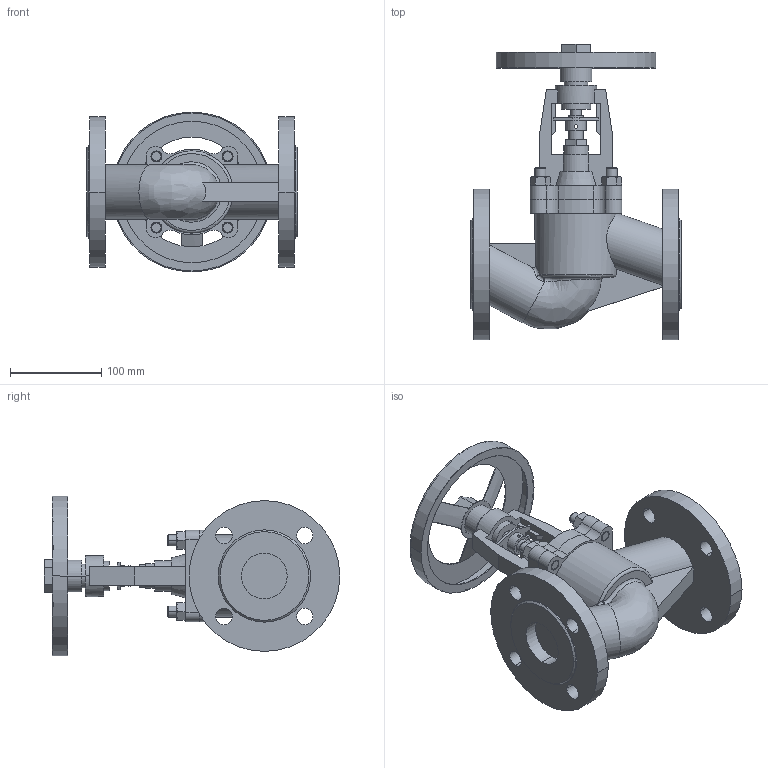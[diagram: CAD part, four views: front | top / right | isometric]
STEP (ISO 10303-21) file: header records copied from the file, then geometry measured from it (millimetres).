
FILE_DESCRIPTION((''),'2;1');
FILE_NAME('BSV-16F_SB_ASM','2026-05-05T',('user'),(''),'PRO/ENGINEER BY PARAMETRIC TECHNOLOGY CORPORATION, 2011220','PRO/ENGINEER BY PARAMETRIC TECHNOLOGY CORPORATION, 2011220','');
FILE_SCHEMA(('CONFIG_CONTROL_DESIGN'));
Length unit declared in the file: millimetre
Products named in the file (11): BSF-16F_KORPUS; BSF-16F_KRISKA; BSF-16F_SHPILKA; G-5915-M12; BSF-16F_SHTOK_SILFON; BSF-16F_VTULKA; BSF-16F_VTULKA_2; BSF-16F_VTULKA_3; BSF-16F_SHTURVAL; BSF-16F_GAIKA; BSV-16F_SB_ASM
Assembly tree (16 placements, depth 2):
  BSV-16F_SB_ASM
    BSF-16F_KORPUS
    BSF-16F_KRISKA
    BSF-16F_SHPILKA  x4
    G-5915-M12  x4
    BSF-16F_SHTOK_SILFON
    BSF-16F_VTULKA
    BSF-16F_VTULKA_2
    BSF-16F_VTULKA_3
    BSF-16F_SHTURVAL
    BSF-16F_GAIKA
Bounding box: 230 x 323.5 x 175 mm (x, y, z)
Volume: 2169966.6 mm3; surface area: 345722.4 mm2
Topology: 16 solids, 28 shells, 410 faces, 1020 edges, 657 vertices
Faces by surface type: plane 172, cylinder 167, cone 60, bspline 9, torus 2
Entity records: 11480 total; most frequent: CARTESIAN_POINT 3009, DIRECTION 1826, ORIENTED_EDGE 1620, EDGE_CURVE 828, AXIS2_PLACEMENT_3D 710, VERTEX_POINT 537, VECTOR 406, LINE 406
